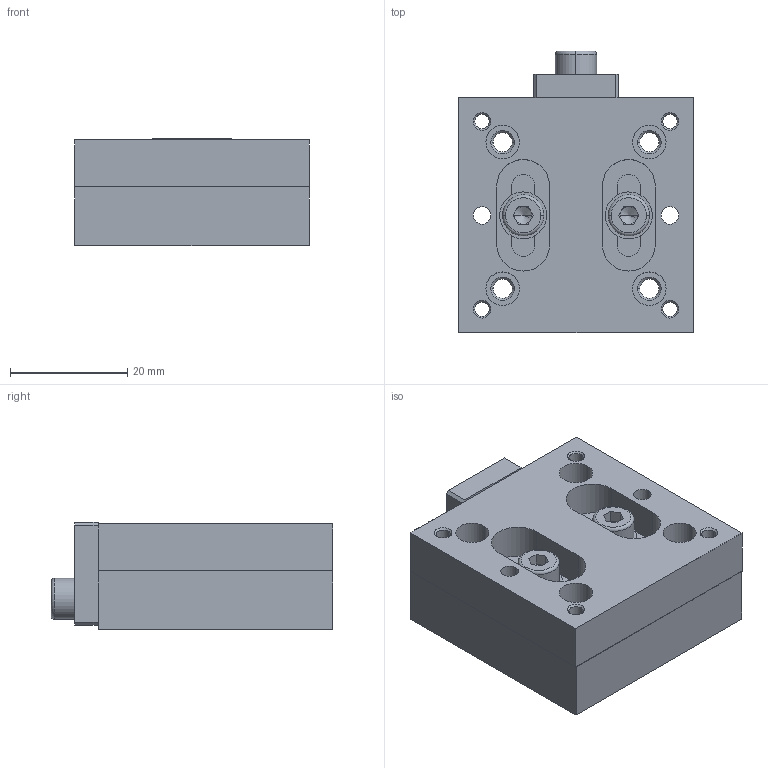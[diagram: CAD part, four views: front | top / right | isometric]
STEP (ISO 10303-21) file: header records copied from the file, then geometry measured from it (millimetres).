
FILE_DESCRIPTION (( 'STEP AP203' ), '1' );
FILE_NAME ('BEMA40.STEP', '2024-03-04T01:08:46', ( 'China' ), ( 'Microsoft' ), 'SwSTEP 2.0', 'SolidWorks 2024', '' );
FILE_SCHEMA (( 'CONFIG_CONTROL_DESIGN' ));
Length unit declared in the file: millimetre
Products named in the file (1): BEMA40
Bounding box: 40 x 48 x 18.25 mm (x, y, z)
Volume: 24939.3 mm3; surface area: 14055.4 mm2
Topology: 11 solids, 11 shells, 325 faces, 762 edges, 462 vertices
Faces by surface type: plane 131, cylinder 106, cone 78, torus 10
Entity records: 9379 total; most frequent: DIRECTION 1712, CARTESIAN_POINT 1622, ORIENTED_EDGE 1484, EDGE_CURVE 742, AXIS2_PLACEMENT_3D 656, VERTEX_POINT 462, EDGE_LOOP 404, LINE 400
